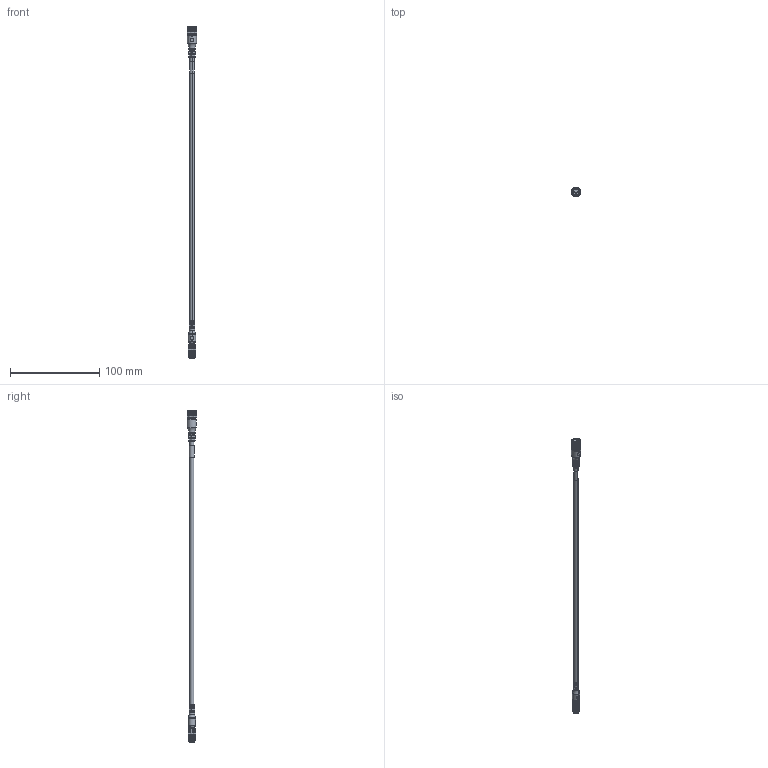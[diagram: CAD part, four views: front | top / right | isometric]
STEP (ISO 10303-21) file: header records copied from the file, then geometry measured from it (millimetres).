
FILE_DESCRIPTION((''),'2;1');
FILE_NAME('889P-F3ABPM-2_ASM','2015-03-23T',('20066374'),('Rockwell Automation'),'PRO/ENGINEER BY PARAMETRIC TECHNOLOGY CORPORATION, 2009140','PRO/ENGINEER BY PARAMETRIC TECHNOLOGY CORPORATION, 2009140','');
FILE_SCHEMA(('CONFIG_CONTROL_DESIGN'));
Length unit declared in the file: inch
Products named in the file (3): STRAIGHT_FEMALE; STRAIGHT_MALE; 889P-F3ABPM-2_ASM
Assembly tree (2 placements, depth 2):
  889P-F3ABPM-2_ASM
    STRAIGHT_FEMALE
    STRAIGHT_MALE
Bounding box: 10.6 x 10.91 x 371.7 mm (x, y, z)
Volume: 8489.6 mm3; surface area: 7637.4 mm2
Topology: 4 solids, 4 shells, 814 faces, 1979 edges, 1199 vertices
Faces by surface type: plane 370, cylinder 316, cone 88, torus 40
Entity records: 24440 total; most frequent: CARTESIAN_POINT 5192, DIRECTION 4164, ORIENTED_EDGE 3958, EDGE_CURVE 1979, AXIS2_PLACEMENT_3D 1593, VERTEX_POINT 1199, VECTOR 978, LINE 978
